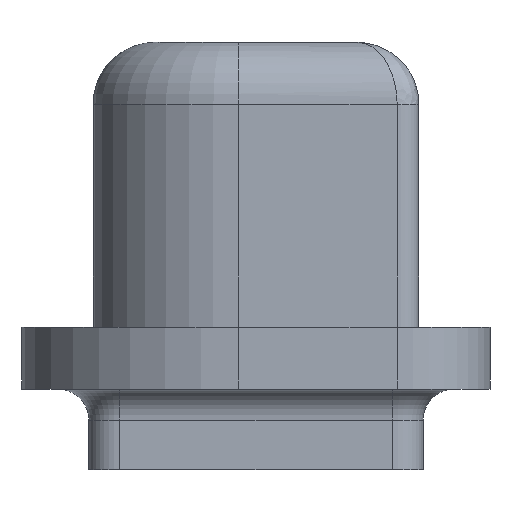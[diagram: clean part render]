
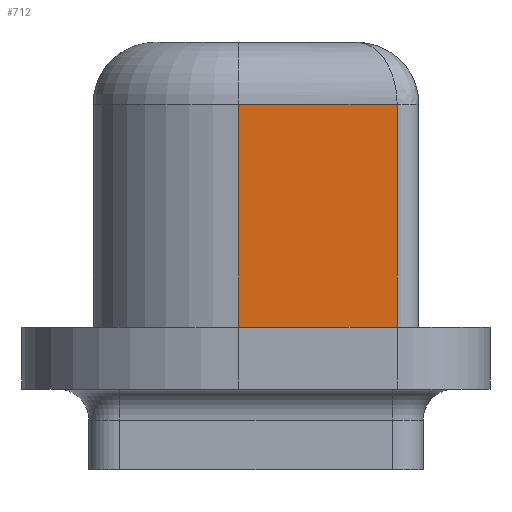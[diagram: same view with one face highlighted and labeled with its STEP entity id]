
A CAD part, left-side view. The second image highlights one B-rep face of the part: STEP entity #712.
In plain terms, the highlighted planar face has unit normal (-1, 0, 0).
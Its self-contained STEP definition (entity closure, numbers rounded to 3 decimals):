
#34=PLANE('',#810);
#75=LINE('',#1256,#131);
#84=LINE('',#1282,#140);
#85=LINE('',#1287,#141);
#86=LINE('',#1288,#142);
#131=VECTOR('',#987,10.);
#140=VECTOR('',#1016,10.);
#141=VECTOR('',#1023,10.);
#142=VECTOR('',#1024,10.);
#206=FACE_OUTER_BOUND('',#251,.T.);
#251=EDGE_LOOP('',(#623,#624,#625,#626));
#343=VERTEX_POINT('',#1230);
#351=VERTEX_POINT('',#1254);
#358=VERTEX_POINT('',#1281);
#359=VERTEX_POINT('',#1286);
#438=EDGE_CURVE('',#351,#343,#75,.T.);
#451=EDGE_CURVE('',#358,#343,#84,.T.);
#453=EDGE_CURVE('',#359,#351,#85,.T.);
#454=EDGE_CURVE('',#358,#359,#86,.T.);
#623=ORIENTED_EDGE('',*,*,#438,.F.);
#624=ORIENTED_EDGE('',*,*,#453,.F.);
#625=ORIENTED_EDGE('',*,*,#454,.F.);
#626=ORIENTED_EDGE('',*,*,#451,.T.);
#712=ADVANCED_FACE('',(#206),#34,.T.);
#810=AXIS2_PLACEMENT_3D('',#1285,#1021,#1022);
#987=DIRECTION('',(0.,-1.,0.));
#1016=DIRECTION('',(0.,0.,1.));
#1021=DIRECTION('center_axis',(-1.,0.,0.));
#1022=DIRECTION('ref_axis',(0.,-1.,0.));
#1023=DIRECTION('',(0.,0.,1.));
#1024=DIRECTION('',(0.,1.,0.));
#1230=CARTESIAN_POINT('',(39.9,16.438,20.888));
#1254=CARTESIAN_POINT('',(39.9,18.996,20.888));
#1256=CARTESIAN_POINT('',(39.9,18.857,20.888));
#1281=CARTESIAN_POINT('',(39.9,16.438,17.288));
#1282=CARTESIAN_POINT('',(39.9,16.438,17.288));
#1285=CARTESIAN_POINT('Origin',(39.9,18.996,17.288));
#1286=CARTESIAN_POINT('',(39.9,18.996,17.288));
#1287=CARTESIAN_POINT('',(39.9,18.996,17.288));
#1288=CARTESIAN_POINT('',(39.9,18.857,17.288));
